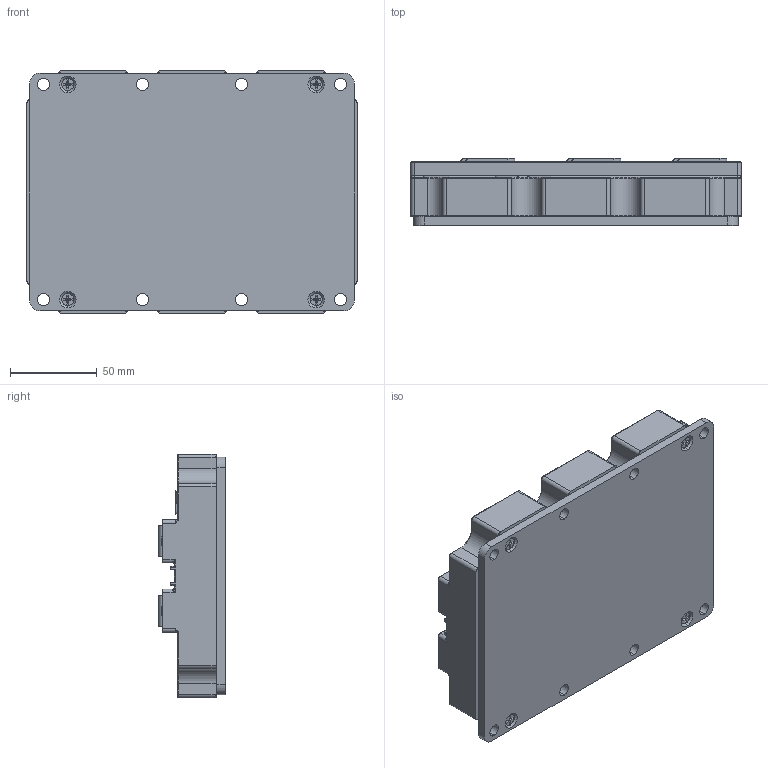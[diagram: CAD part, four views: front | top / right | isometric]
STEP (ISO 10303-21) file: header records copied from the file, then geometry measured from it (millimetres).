
FILE_DESCRIPTION (( 'STEP AP214' ), '1' );
FILE_NAME ('LD-ES-170634-MBN2400F17F.STEP', '2021-07-08T06:38:39', ( '' ), ( '' ), 'SwSTEP 2.0', 'SolidWorks 2019', '' );
FILE_SCHEMA (( 'AUTOMOTIVE_DESIGN' ));
Length unit declared in the file: millimetre
Products named in the file (1): LD-ES-170634-MBN2400F17F
Bounding box: 190 x 38.5 x 140 mm (x, y, z)
Volume: 761202.3 mm3; surface area: 106600.9 mm2
Topology: 1 solids, 12 shells, 1331 faces, 3466 edges, 2242 vertices
Faces by surface type: plane 639, cylinder 489, cone 84, torus 74, bspline 39, sphere 6
Entity records: 54450 total; most frequent: CARTESIAN_POINT 22713, ORIENTED_EDGE 6916, DIRECTION 5996, EDGE_CURVE 3458, VERTEX_POINT 2242, AXIS2_PLACEMENT_3D 2033, LINE 1930, VECTOR 1930
